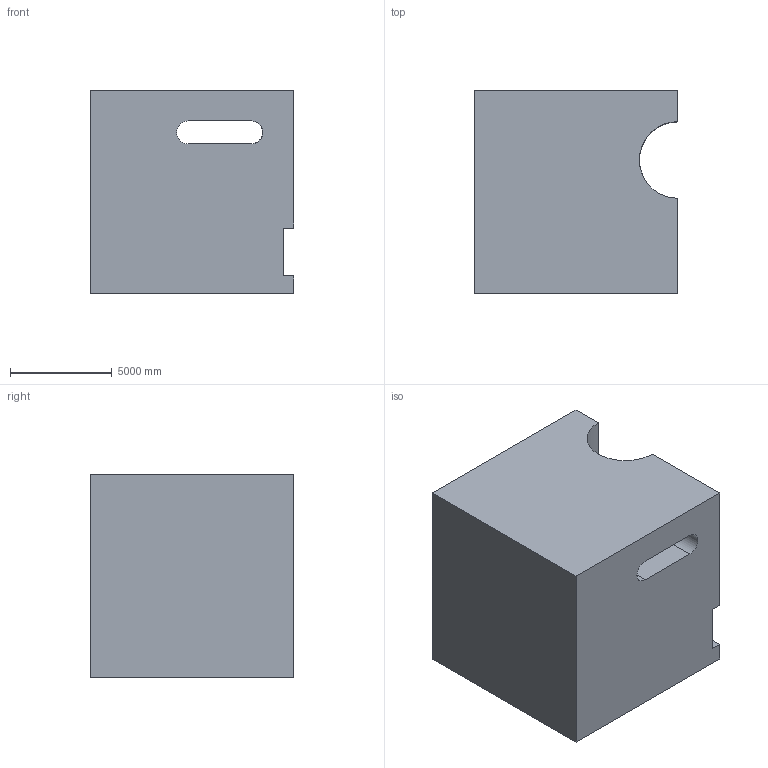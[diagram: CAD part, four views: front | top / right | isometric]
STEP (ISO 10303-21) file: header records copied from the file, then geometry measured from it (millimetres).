
FILE_DESCRIPTION (( 'STEP AP203' ), '1' );
FILE_NAME ('26.STEP', '2022-09-02T13:43:30', ( 'user' ), ( '' ), 'SwSTEP 2.0', 'SolidWorks 2021', '' );
FILE_SCHEMA (( 'CONFIG_CONTROL_DESIGN' ));
Length unit declared in the file: centimetre
Products named in the file (1): 26
Bounding box: 10000 x 10000 x 10000 mm (x, y, z)
Volume: 892401525421.7 mm3; surface area: 696350466.4 mm2
Topology: 1 solids, 1 shells, 20 faces, 56 edges, 38 vertices
Faces by surface type: plane 17, cylinder 3
Entity records: 1044 total; most frequent: CARTESIAN_POINT 432, ORIENTED_EDGE 112, DIRECTION 106, EDGE_CURVE 56, LINE 44, VECTOR 44, VERTEX_POINT 38, AXIS2_PLACEMENT_3D 31
